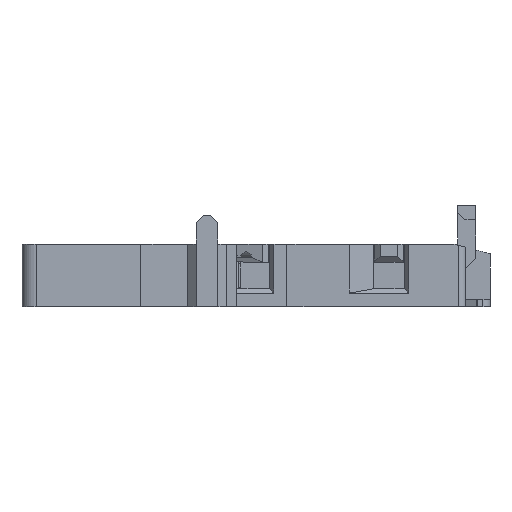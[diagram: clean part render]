
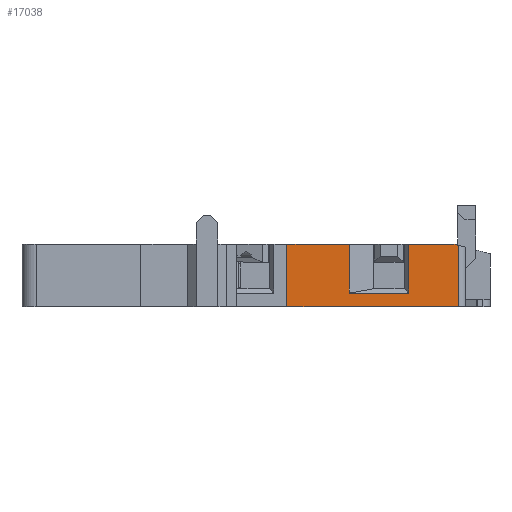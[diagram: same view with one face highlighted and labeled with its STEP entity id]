
A CAD part, left-side view. The second image highlights one B-rep face of the part: STEP entity #17038.
In plain terms, the highlighted planar face has unit normal (-1, 0, 0).
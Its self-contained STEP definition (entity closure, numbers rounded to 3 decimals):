
#7855 = VERTEX_POINT ( 'NONE', #16103 ) ;
#7919 = EDGE_CURVE ( 'NONE', #7855, #7928, #16931, .T. ) ;
#7928 = VERTEX_POINT ( 'NONE', #16892 ) ;
#15447 = EDGE_CURVE ( 'NONE', #15547, #15548, #26072, .T. ) ;
#15519 = EDGE_CURVE ( 'NONE', #15569, #7855, #26597, .T. ) ;
#15547 = VERTEX_POINT ( 'NONE', #26639 ) ;
#15548 = VERTEX_POINT ( 'NONE', #26638 ) ;
#15564 = EDGE_CURVE ( 'NONE', #15548, #15565, #26721, .T. ) ;
#15565 = VERTEX_POINT ( 'NONE', #26717 ) ;
#15569 = VERTEX_POINT ( 'NONE', #26715 ) ;
#15571 = VERTEX_POINT ( 'NONE', #26714 ) ;
#15574 = VERTEX_POINT ( 'NONE', #26709 ) ;
#15577 = EDGE_CURVE ( 'NONE', #15565, #15574, #26703, .T. ) ;
#15628 = EDGE_CURVE ( 'NONE', #15574, #15571, #26952, .T. ) ;
#16067 = ORIENTED_EDGE ( 'NONE', *, *, #17152, .T. ) ;
#16090 = EDGE_CURVE ( 'NONE', #7928, #15547, #27657, .T. ) ;
#16103 = CARTESIAN_POINT ( 'NONE',  ( -42.5, -0.609, 8.537 ) ) ;
#16892 = CARTESIAN_POINT ( 'NONE',  ( -42.5, 0., 8.7 ) ) ;
#16925 = DIRECTION ( 'NONE',  ( 0., 0.966, 0.259 ) ) ;
#16927 = VECTOR ( 'NONE', #16925, 1000. ) ;
#16929 = CARTESIAN_POINT ( 'NONE',  ( -42.5, -1.631, 8.263 ) ) ;
#16931 = LINE ( 'NONE', #16929, #16927 ) ;
#17023 = ORIENTED_EDGE ( 'NONE', *, *, #16090, .T. ) ;
#17024 = ORIENTED_EDGE ( 'NONE', *, *, #15564, .T. ) ;
#17026 = VERTEX_POINT ( 'NONE', #30810 ) ;
#17029 = EDGE_LOOP ( 'NONE', ( #17040, #17037, #17032, #16067, #17154, #17159, #17023, #17149, #17024 ) ) ;
#17032 = ORIENTED_EDGE ( 'NONE', *, *, #17034, .T. ) ;
#17034 = EDGE_CURVE ( 'NONE', #15571, #17026, #30809, .T. ) ;
#17037 = ORIENTED_EDGE ( 'NONE', *, *, #15628, .T. ) ;
#17038 = ADVANCED_FACE ( 'NONE', ( #30800 ), #30840, .T. ) ;
#17040 = ORIENTED_EDGE ( 'NONE', *, *, #15577, .T. ) ;
#17149 = ORIENTED_EDGE ( 'NONE', *, *, #15447, .T. ) ;
#17152 = EDGE_CURVE ( 'NONE', #17026, #15569, #30998, .T. ) ;
#17154 = ORIENTED_EDGE ( 'NONE', *, *, #15519, .T. ) ;
#17159 = ORIENTED_EDGE ( 'NONE', *, *, #7919, .T. ) ;
#26069 = DIRECTION ( 'NONE',  ( 0., 0., -1. ) ) ;
#26070 = VECTOR ( 'NONE', #26069, 1000. ) ;
#26071 = CARTESIAN_POINT ( 'NONE',  ( -42.5, 6.3, 0. ) ) ;
#26072 = LINE ( 'NONE', #26071, #26070 ) ;
#26594 = DIRECTION ( 'NONE',  ( 0., 0., 1. ) ) ;
#26595 = VECTOR ( 'NONE', #26594, 1000. ) ;
#26596 = CARTESIAN_POINT ( 'NONE',  ( -42.5, -0.609, 0. ) ) ;
#26597 = LINE ( 'NONE', #26596, #26595 ) ;
#26638 = CARTESIAN_POINT ( 'NONE',  ( -42.5, 6.3, 1.9 ) ) ;
#26639 = CARTESIAN_POINT ( 'NONE',  ( -42.5, 6.3, 8.7 ) ) ;
#26700 = DIRECTION ( 'NONE',  ( 0., 0., 1. ) ) ;
#26701 = VECTOR ( 'NONE', #26700, 1000. ) ;
#26702 = CARTESIAN_POINT ( 'NONE',  ( -42.5, 14.55, 0. ) ) ;
#26703 = LINE ( 'NONE', #26702, #26701 ) ;
#26709 = CARTESIAN_POINT ( 'NONE',  ( -42.5, 14.55, 8.7 ) ) ;
#26714 = CARTESIAN_POINT ( 'NONE',  ( -42.5, 23.2, 8.7 ) ) ;
#26715 = CARTESIAN_POINT ( 'NONE',  ( -42.5, -0.609, 0. ) ) ;
#26717 = CARTESIAN_POINT ( 'NONE',  ( -42.5, 14.55, 1.9 ) ) ;
#26718 = DIRECTION ( 'NONE',  ( 0., 1., 0. ) ) ;
#26719 = VECTOR ( 'NONE', #26718, 1000. ) ;
#26720 = CARTESIAN_POINT ( 'NONE',  ( -42.5, -5., 1.9 ) ) ;
#26721 = LINE ( 'NONE', #26720, #26719 ) ;
#26948 = DIRECTION ( 'NONE',  ( 0., 1., 0. ) ) ;
#26949 = VECTOR ( 'NONE', #26948, 1000. ) ;
#26950 = CARTESIAN_POINT ( 'NONE',  ( -42.5, -5., 8.7 ) ) ;
#26952 = LINE ( 'NONE', #26950, #26949 ) ;
#27654 = DIRECTION ( 'NONE',  ( 0., 1., 0. ) ) ;
#27655 = VECTOR ( 'NONE', #27654, 1000. ) ;
#27656 = CARTESIAN_POINT ( 'NONE',  ( -42.5, -5., 8.7 ) ) ;
#27657 = LINE ( 'NONE', #27656, #27655 ) ;
#30800 = FACE_OUTER_BOUND ( 'NONE', #17029, .T. ) ;
#30806 = DIRECTION ( 'NONE',  ( 0., 0., -1. ) ) ;
#30807 = VECTOR ( 'NONE', #30806, 1000. ) ;
#30808 = CARTESIAN_POINT ( 'NONE',  ( -42.5, 23.2, 0. ) ) ;
#30809 = LINE ( 'NONE', #30808, #30807 ) ;
#30810 = CARTESIAN_POINT ( 'NONE',  ( -42.5, 23.2, 0. ) ) ;
#30836 = DIRECTION ( 'NONE',  ( 0., -1., 0. ) ) ;
#30837 = DIRECTION ( 'NONE',  ( -1., 0., 0. ) ) ;
#30838 = CARTESIAN_POINT ( 'NONE',  ( -42.5, -5., 0. ) ) ;
#30839 = AXIS2_PLACEMENT_3D ( 'NONE', #30838, #30837, #30836 ) ;
#30840 = PLANE ( 'NONE',  #30839 ) ;
#30995 = DIRECTION ( 'NONE',  ( 0., -1., 0. ) ) ;
#30996 = VECTOR ( 'NONE', #30995, 1000. ) ;
#30997 = CARTESIAN_POINT ( 'NONE',  ( -42.5, 35.5, 0. ) ) ;
#30998 = LINE ( 'NONE', #30997, #30996 ) ;
